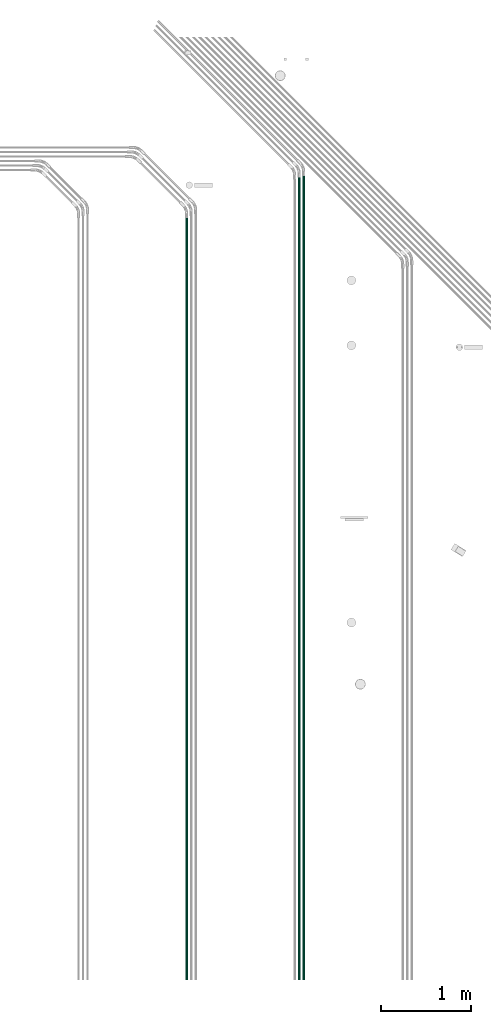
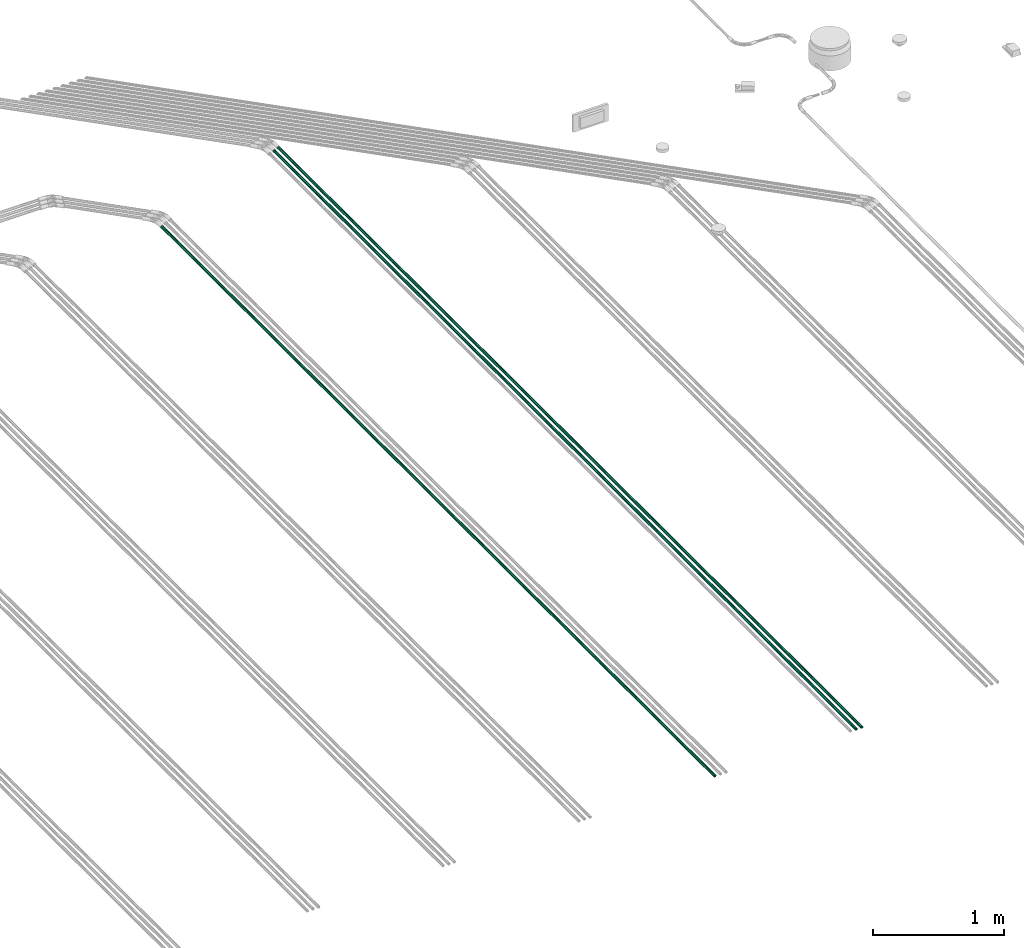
# One storey, part 41 of 51: 3 flow segments.
"""IFC2X3 building model written with IfcOpenShell, lengths in millimetres."""

from ifc_helpers import new_model, entity, si_unit, converted_unit, derived_unit, direction, frame, place, context, subcontext, project, spatial, faceted_brep, type_object, element, save


model = new_model("IFC2X3")

# Units and contexts
model_context = context("Model", 3, precision=0.01, world=frame((0.0, 4.29681676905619e-09, 0.0)), true_north=direction((4.01073788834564e-13, 1.0)))
plan_context = context("Plan", 3, precision=0.01, world=frame((0.0, 4.29681676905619e-09, 0.0)), true_north=direction((4.01073788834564e-13, 1.0)))
body_context = subcontext(model_context, "Body", "Model", "MODEL_VIEW")
ifc_project = project(units=[converted_unit("PLANEANGLEUNIT", "DEGREE", entity("IfcPositiveLengthMeasure", 0.0174532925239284), si_unit("PLANEANGLEUNIT", "RADIAN"), dimensions=[0, 0, 0, 0, 0, 0, 0]), si_unit("AREAUNIT", "SQUARE_METRE"), si_unit("LENGTHUNIT", "METRE", prefix="MILLI"), si_unit("MASSUNIT", "GRAM", prefix="KILO"), si_unit("POWERUNIT", "WATT"), si_unit("PRESSUREUNIT", "PASCAL"), si_unit("FORCEUNIT", "NEWTON", prefix="KILO"), si_unit("ELECTRICVOLTAGEUNIT", "VOLT"), si_unit("ELECTRICCURRENTUNIT", "AMPERE"), si_unit("THERMODYNAMICTEMPERATUREUNIT", "DEGREE_CELSIUS"), si_unit("TIMEUNIT", "SECOND"), si_unit("VOLUMEUNIT", "CUBIC_METRE"), derived_unit("LINEARVELOCITYUNIT", [(si_unit("LENGTHUNIT", "METRE"), 1), (si_unit("TIMEUNIT", "SECOND"), -1)]), derived_unit("VOLUMETRICFLOWRATEUNIT", [(si_unit("VOLUMEUNIT", "CUBIC_METRE"), 1), (si_unit("TIMEUNIT", "SECOND"), -1)]), derived_unit("THERMALTRANSMITTANCEUNIT", [(si_unit("POWERUNIT", "WATT"), 1), (si_unit("THERMODYNAMICTEMPERATUREUNIT", "KELVIN"), -1), (si_unit("AREAUNIT", "SQUARE_METRE"), -1)]), derived_unit("SOUNDPRESSUREUNIT", [(si_unit("PRESSUREUNIT", "PASCAL"), 1)])], contexts=[model_context, plan_context])

# Site, building, storey
site_placement = place(None, frame((0.0, -4.29681676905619e-09, 0.0), z_axis=(0.0, 0.0, 1.0), x_axis=(1.0, 0.0, 0.0)))
site = spatial("IfcSite", under=ifc_project, at=site_placement, Name="ENGM", CompositionType="ELEMENT")
building_placement = place(site_placement, frame((0.0, 4.29681676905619e-09, 0.0), z_axis=(0.0, 0.0, 1.0), x_axis=(1.0, 0.0, 0.0)))
building = spatial("IfcBuilding", under=site, at=building_placement, Name="TI", CompositionType="ELEMENT")
storey_placement = place(building_placement, frame((0.0, 0.0, 210900.0), z_axis=(0.0, 0.0, 1.0), x_axis=(1.0, 0.0, 0.0)))
storey = spatial("IfcBuildingStorey", under=building, at=storey_placement, Name="Nivå F", CompositionType="ELEMENT", Elevation=210900.0)

# Flow segments
cable_carrier_segment_type = type_object("IfcCableCarrierSegmentType", Name="Trekkerør, korrugert", PredefinedType="CONDUITSEGMENT")
flow_segment_1_placement = place(storey_placement, frame((607624.59, 697931.34207, -56.7999999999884), z_axis=(0.0, 0.0, 1.0), x_axis=(0.0, -1.0, 0.0)))
element("IfcFlowSegment", 1, at=flow_segment_1_placement, inside=storey, type_object=cable_carrier_segment_type, Name="Trekkerør, korrugert", context=body_context, shape_type="Brep", body=[
    faceted_brep([(8931.34207000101, 10.5, 0.0), (8931.34207000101, 10.3404814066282, -1.82330586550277), (0.0, 10.3404814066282, -1.82330586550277), (0.0, 10.5, 0.0), (8931.34207000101, 9.86677251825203, -3.59121150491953), (0.0, 9.86677251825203, -3.59121150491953), (8931.34207000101, 9.0932667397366, -5.25000000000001), (0.0, 9.0932667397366, -5.25), (8931.34207000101, 8.04346665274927, -6.74926990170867), (0.0, 8.04346665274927, -6.74926990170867), (8931.34207000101, 6.74926990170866, -8.04346665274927), (0.0, 6.74926990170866, -8.04346665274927), (8931.34207000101, 5.25, -9.09326673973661), (0.0, 5.25, -9.09326673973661), (8931.34207000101, 3.59121150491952, -9.86677251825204), (0.0, 3.59121150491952, -9.86677251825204), (8931.34207000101, 1.82330586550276, -10.3404814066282), (0.0, 1.82330586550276, -10.3404814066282), (8931.34207000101, -1.92881870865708e-15, -10.5), (0.0, -1.92881870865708e-15, -10.5), (8931.34207000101, -1.82330586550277, -10.3404814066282), (0.0, -1.82330586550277, -10.3404814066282), (8931.34207000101, -3.59121150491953, -9.86677251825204), (0.0, -3.59121150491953, -9.86677251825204), (8931.34207000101, -5.25000000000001, -9.0932667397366), (0.0, -5.25, -9.0932667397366), (8931.34207000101, -6.74926990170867, -8.04346665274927), (0.0, -6.74926990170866, -8.04346665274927), (8931.34207000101, -8.04346665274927, -6.74926990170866), (0.0, -8.04346665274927, -6.74926990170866), (8931.34207000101, -9.09326673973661, -5.25), (0.0, -9.09326673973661, -5.25), (8931.34207000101, -9.86677251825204, -3.59121150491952), (0.0, -9.86677251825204, -3.59121150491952), (8931.34207000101, -10.3404814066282, -1.82330586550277), (0.0, -10.3404814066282, -1.82330586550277), (8931.34207000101, -10.5, 1.28587913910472e-15), (0.0, -10.5, 1.28587913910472e-15), (8931.34207000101, -10.3404814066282, 1.82330586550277), (0.0, -10.3404814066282, 1.82330586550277), (8931.34207000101, -9.86677251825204, 3.59121150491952), (0.0, -9.86677251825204, 3.59121150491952), (8931.34207000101, -9.09326673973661, 5.25), (0.0, -9.09326673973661, 5.25), (8931.34207000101, -8.04346665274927, 6.74926990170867), (0.0, -8.04346665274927, 6.74926990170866), (8931.34207000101, -6.74926990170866, 8.04346665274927), (0.0, -6.74926990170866, 8.04346665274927), (8931.34207000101, -5.25, 9.09326673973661), (0.0, -5.25, 9.09326673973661), (8931.34207000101, -3.59121150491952, 9.86677251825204), (0.0, -3.59121150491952, 9.86677251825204), (8931.34207000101, -1.82330586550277, 10.3404814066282), (0.0, -1.82330586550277, 10.3404814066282), (8931.34207000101, 6.42939569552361e-16, 10.5), (0.0, 6.4293956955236e-16, 10.5), (8931.34207000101, 1.82330586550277, 10.3404814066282), (0.0, 1.82330586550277, 10.3404814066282), (8931.34207000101, 3.59121150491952, 9.86677251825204), (0.0, 3.59121150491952, 9.86677251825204), (8931.34207000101, 5.25, 9.09326673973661), (0.0, 5.25, 9.09326673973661), (8931.34207000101, 6.74926990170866, 8.04346665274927), (0.0, 6.74926990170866, 8.04346665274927), (8931.34207000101, 8.04346665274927, 6.74926990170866), (0.0, 8.04346665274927, 6.74926990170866), (8931.34207000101, 9.09326673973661, 5.25), (0.0, 9.09326673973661, 5.25), (8931.34207000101, 9.86677251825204, 3.59121150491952), (0.0, 9.86677251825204, 3.59121150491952), (8931.34207000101, 10.3404814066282, 1.82330586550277), (0.0, 10.3404814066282, 1.82330586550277), (8931.34207000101, 12.3100969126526, -2.17060222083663), (8931.34207000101, 12.5, 0.0), (0.0, 12.5, 0.0), (0.0, 12.3100969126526, -2.17060222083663), (8931.34207000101, 12.3100969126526, 2.17060222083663), (0.0, 12.3100969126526, 2.17060222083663), (8931.34207000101, 11.7461577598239, 4.27525179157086), (0.0, 11.7461577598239, 4.27525179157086), (8931.34207000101, 10.8253175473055, 6.25), (0.0, 10.8253175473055, 6.25), (8931.34207000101, 9.57555553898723, 8.03484512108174), (0.0, 9.57555553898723, 8.03484512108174), (8931.34207000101, 8.03484512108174, 9.57555553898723), (0.0, 8.03484512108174, 9.57555553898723), (8931.34207000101, 6.25, 10.8253175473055), (0.0, 6.25, 10.8253175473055), (8931.34207000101, 4.27525179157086, 11.7461577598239), (0.0, 4.27525179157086, 11.7461577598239), (8931.34207000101, 2.17060222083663, 12.3100969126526), (0.0, 2.17060222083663, 12.3100969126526), (8931.34207000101, 7.65404249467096e-16, 12.5), (0.0, 7.65404249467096e-16, 12.5), (8931.34207000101, -2.17060222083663, 12.3100969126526), (0.0, -2.17060222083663, 12.3100969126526), (8931.34207000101, -4.27525179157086, 11.7461577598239), (0.0, -4.27525179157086, 11.7461577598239), (8931.34207000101, -6.25, 10.8253175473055), (0.0, -6.25, 10.8253175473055), (8931.34207000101, -8.03484512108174, 9.57555553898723), (0.0, -8.03484512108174, 9.57555553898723), (8931.34207000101, -9.57555553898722, 8.03484512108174), (0.0, -9.57555553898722, 8.03484512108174), (8931.34207000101, -10.8253175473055, 6.25), (0.0, -10.8253175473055, 6.25), (8931.34207000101, -11.7461577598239, 4.27525179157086), (0.0, -11.7461577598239, 4.27525179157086), (8931.34207000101, -12.3100969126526, 2.17060222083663), (0.0, -12.3100969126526, 2.17060222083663), (8931.34207000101, -12.5, 1.53080849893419e-15), (0.0, -12.5, 1.53080849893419e-15), (8931.34207000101, -12.3100969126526, -2.17060222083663), (0.0, -12.3100969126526, -2.17060222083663), (8931.34207000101, -11.7461577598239, -4.27525179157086), (0.0, -11.7461577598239, -4.27525179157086), (8931.34207000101, -10.8253175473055, -6.25), (0.0, -10.8253175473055, -6.25), (8931.34207000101, -9.57555553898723, -8.03484512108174), (0.0, -9.57555553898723, -8.03484512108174), (8931.34207000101, -8.03484512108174, -9.57555553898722), (0.0, -8.03484512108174, -9.57555553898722), (8931.34207000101, -6.25000000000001, -10.8253175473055), (0.0, -6.25000000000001, -10.8253175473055), (8931.34207000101, -4.27525179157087, -11.7461577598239), (0.0, -4.27525179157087, -11.7461577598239), (8931.34207000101, -2.17060222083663, -12.3100969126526), (0.0, -2.17060222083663, -12.3100969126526), (8931.34207000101, -2.29621274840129e-15, -12.5), (0.0, -2.29621274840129e-15, -12.5), (8931.34207000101, 2.17060222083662, -12.3100969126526), (0.0, 2.17060222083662, -12.3100969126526), (8931.34207000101, 4.27525179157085, -11.7461577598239), (0.0, 4.27525179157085, -11.7461577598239), (8931.34207000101, 6.25, -10.8253175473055), (0.0, 6.25, -10.8253175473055), (8931.34207000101, 8.03484512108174, -9.57555553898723), (0.0, 8.03484512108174, -9.57555553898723), (8931.34207000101, 9.57555553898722, -8.03484512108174), (0.0, 9.57555553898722, -8.03484512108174), (8931.34207000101, 10.8253175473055, -6.25000000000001), (0.0, 10.8253175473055, -6.25000000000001), (8931.34207000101, 11.7461577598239, -4.27525179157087), (0.0, 11.7461577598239, -4.27525179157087)], [[[0, 1, 2, 3]], [[1, 4, 5, 2]], [[4, 6, 7, 5]], [[6, 8, 9, 7]], [[8, 10, 11, 9]], [[10, 12, 13, 11]], [[12, 14, 15, 13]], [[14, 16, 17, 15]], [[16, 18, 19, 17]], [[18, 20, 21, 19]], [[20, 22, 23, 21]], [[22, 24, 25, 23]], [[24, 26, 27, 25]], [[26, 28, 29, 27]], [[28, 30, 31, 29]], [[30, 32, 33, 31]], [[32, 34, 35, 33]], [[34, 36, 37, 35]], [[36, 38, 39, 37]], [[38, 40, 41, 39]], [[40, 42, 43, 41]], [[42, 44, 45, 43]], [[44, 46, 47, 45]], [[46, 48, 49, 47]], [[48, 50, 51, 49]], [[50, 52, 53, 51]], [[52, 54, 55, 53]], [[54, 56, 57, 55]], [[56, 58, 59, 57]], [[58, 60, 61, 59]], [[60, 62, 63, 61]], [[62, 64, 65, 63]], [[64, 66, 67, 65]], [[66, 68, 69, 67]], [[68, 70, 71, 69]], [[70, 0, 3, 71]], [[72, 73, 74, 75]], [[73, 76, 77, 74]], [[76, 78, 79, 77]], [[78, 80, 81, 79]], [[80, 82, 83, 81]], [[82, 84, 85, 83]], [[84, 86, 87, 85]], [[86, 88, 89, 87]], [[88, 90, 91, 89]], [[90, 92, 93, 91]], [[92, 94, 95, 93]], [[94, 96, 97, 95]], [[96, 98, 99, 97]], [[98, 100, 101, 99]], [[100, 102, 103, 101]], [[102, 104, 105, 103]], [[104, 106, 107, 105]], [[106, 108, 109, 107]], [[108, 110, 111, 109]], [[110, 112, 113, 111]], [[112, 114, 115, 113]], [[114, 116, 117, 115]], [[116, 118, 119, 117]], [[118, 120, 121, 119]], [[120, 122, 123, 121]], [[122, 124, 125, 123]], [[124, 126, 127, 125]], [[126, 128, 129, 127]], [[128, 130, 131, 129]], [[130, 132, 133, 131]], [[132, 134, 135, 133]], [[134, 136, 137, 135]], [[136, 138, 139, 137]], [[138, 140, 141, 139]], [[140, 142, 143, 141]], [[142, 72, 75, 143]], [[75, 74, 77, 79, 81, 83, 85, 87, 89, 91, 93, 95, 97, 99, 101, 103, 105, 107, 109, 111, 113, 115, 117, 119, 121, 123, 125, 127, 129, 131, 133, 135, 137, 139, 141, 143], [3, 2, 5, 7, 9, 11, 13, 15, 17, 19, 21, 23, 25, 27, 29, 31, 33, 35, 37, 39, 41, 43, 45, 47, 49, 51, 53, 55, 57, 59, 61, 63, 65, 67, 69, 71]], [[142, 140, 138, 136, 134, 132, 130, 128, 126, 124, 122, 120, 118, 116, 114, 112, 110, 108, 106, 104, 102, 100, 98, 96, 94, 92, 90, 88, 86, 84, 82, 80, 78, 76, 73, 72], [70, 68, 66, 64, 62, 60, 58, 56, 54, 52, 50, 48, 46, 44, 42, 40, 38, 36, 34, 32, 30, 28, 26, 24, 22, 20, 18, 16, 14, 12, 10, 8, 6, 4, 1, 0]]], orient=[[False], [False], [False], [False], [False], [False], [False], [False], [False], [False], [False], [False], [False], [False], [False], [False], [False], [False], [False], [False], [False], [False], [False], [False], [False], [False], [False], [False], [False], [False], [False], [False], [False], [False], [False], [False], [False], [False], [False], [False], [False], [False], [False], [False], [False], [False], [False], [False], [False], [False], [False], [False], [False], [False], [False], [False], [False], [False], [False], [False], [False], [False], [False], [False], [False], [False], [False], [False], [False], [False], [False], [False], [False, False], [False, False]]),
])
flow_segment_2_placement = place(storey_placement, frame((607574.59, 697910.63139, -56.7999999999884), z_axis=(0.0, 0.0, 1.0), x_axis=(0.0, -1.0, 0.0)))
element("IfcFlowSegment", 2, at=flow_segment_2_placement, inside=storey, type_object=cable_carrier_segment_type, Name="Trekkerør, korrugert", context=body_context, shape_type="Brep", body=[
    faceted_brep([(8910.63139000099, 10.5, 0.0), (8910.63139000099, 10.3404814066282, -1.82330586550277), (0.0, 10.3404814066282, -1.82330586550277), (0.0, 10.5, 0.0), (8910.63139000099, 9.86677251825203, -3.59121150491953), (0.0, 9.86677251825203, -3.59121150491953), (8910.63139000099, 9.0932667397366, -5.25), (0.0, 9.0932667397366, -5.25), (8910.63139000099, 8.04346665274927, -6.74926990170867), (0.0, 8.04346665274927, -6.74926990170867), (8910.63139000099, 6.74926990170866, -8.04346665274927), (0.0, 6.74926990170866, -8.04346665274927), (8910.63139000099, 5.25, -9.09326673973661), (0.0, 5.25, -9.09326673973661), (8910.63139000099, 3.59121150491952, -9.86677251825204), (0.0, 3.59121150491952, -9.86677251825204), (8910.63139000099, 1.82330586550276, -10.3404814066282), (0.0, 1.82330586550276, -10.3404814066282), (8910.63139000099, -1.92881870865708e-15, -10.5), (0.0, -1.92881870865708e-15, -10.5), (8910.63139000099, -1.82330586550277, -10.3404814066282), (0.0, -1.82330586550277, -10.3404814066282), (8910.63139000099, -3.59121150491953, -9.86677251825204), (0.0, -3.59121150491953, -9.86677251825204), (8910.63139000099, -5.25, -9.0932667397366), (0.0, -5.25, -9.0932667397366), (8910.63139000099, -6.74926990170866, -8.04346665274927), (0.0, -6.74926990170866, -8.04346665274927), (8910.63139000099, -8.04346665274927, -6.74926990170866), (0.0, -8.04346665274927, -6.74926990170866), (8910.63139000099, -9.09326673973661, -5.25), (0.0, -9.09326673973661, -5.25), (8910.63139000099, -9.86677251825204, -3.59121150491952), (0.0, -9.86677251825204, -3.59121150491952), (8910.63139000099, -10.3404814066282, -1.82330586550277), (0.0, -10.3404814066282, -1.82330586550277), (8910.63139000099, -10.5, 1.28587913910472e-15), (0.0, -10.5, 1.28587913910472e-15), (8910.63139000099, -10.3404814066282, 1.82330586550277), (0.0, -10.3404814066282, 1.82330586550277), (8910.63139000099, -9.86677251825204, 3.59121150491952), (0.0, -9.86677251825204, 3.59121150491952), (8910.63139000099, -9.09326673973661, 5.25), (0.0, -9.09326673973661, 5.25), (8910.63139000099, -8.04346665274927, 6.74926990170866), (0.0, -8.04346665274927, 6.74926990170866), (8910.63139000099, -6.74926990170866, 8.04346665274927), (0.0, -6.74926990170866, 8.04346665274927), (8910.63139000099, -5.25, 9.09326673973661), (0.0, -5.25, 9.09326673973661), (8910.63139000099, -3.59121150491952, 9.86677251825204), (0.0, -3.59121150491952, 9.86677251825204), (8910.63139000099, -1.82330586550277, 10.3404814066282), (0.0, -1.82330586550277, 10.3404814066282), (8910.63139000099, 6.4293956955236e-16, 10.5), (0.0, 6.4293956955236e-16, 10.5), (8910.63139000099, 1.82330586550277, 10.3404814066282), (0.0, 1.82330586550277, 10.3404814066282), (8910.63139000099, 3.59121150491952, 9.86677251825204), (0.0, 3.59121150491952, 9.86677251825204), (8910.63139000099, 5.25, 9.09326673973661), (0.0, 5.25, 9.09326673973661), (8910.63139000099, 6.74926990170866, 8.04346665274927), (0.0, 6.74926990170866, 8.04346665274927), (8910.63139000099, 8.04346665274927, 6.74926990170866), (0.0, 8.04346665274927, 6.74926990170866), (8910.63139000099, 9.09326673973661, 5.25), (0.0, 9.09326673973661, 5.25), (8910.63139000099, 9.86677251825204, 3.59121150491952), (0.0, 9.86677251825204, 3.59121150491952), (8910.63139000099, 10.3404814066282, 1.82330586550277), (0.0, 10.3404814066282, 1.82330586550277), (8910.63139000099, 12.3100969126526, -2.17060222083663), (8910.63139000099, 12.5, 0.0), (0.0, 12.5, 0.0), (0.0, 12.3100969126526, -2.17060222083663), (8910.63139000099, 12.3100969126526, 2.17060222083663), (0.0, 12.3100969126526, 2.17060222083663), (8910.63139000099, 11.7461577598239, 4.27525179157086), (0.0, 11.7461577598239, 4.27525179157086), (8910.63139000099, 10.8253175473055, 6.25), (0.0, 10.8253175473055, 6.25), (8910.63139000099, 9.57555553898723, 8.03484512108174), (0.0, 9.57555553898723, 8.03484512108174), (8910.63139000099, 8.03484512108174, 9.57555553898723), (0.0, 8.03484512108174, 9.57555553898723), (8910.63139000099, 6.25, 10.8253175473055), (0.0, 6.25, 10.8253175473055), (8910.63139000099, 4.27525179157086, 11.7461577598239), (0.0, 4.27525179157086, 11.7461577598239), (8910.63139000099, 2.17060222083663, 12.3100969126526), (0.0, 2.17060222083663, 12.3100969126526), (8910.63139000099, 7.65404249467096e-16, 12.5), (0.0, 7.65404249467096e-16, 12.5), (8910.63139000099, -2.17060222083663, 12.3100969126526), (0.0, -2.17060222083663, 12.3100969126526), (8910.63139000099, -4.27525179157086, 11.7461577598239), (0.0, -4.27525179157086, 11.7461577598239), (8910.63139000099, -6.25, 10.8253175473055), (0.0, -6.25, 10.8253175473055), (8910.63139000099, -8.03484512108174, 9.57555553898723), (0.0, -8.03484512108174, 9.57555553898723), (8910.63139000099, -9.57555553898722, 8.03484512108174), (0.0, -9.57555553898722, 8.03484512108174), (8910.63139000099, -10.8253175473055, 6.25), (0.0, -10.8253175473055, 6.25), (8910.63139000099, -11.7461577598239, 4.27525179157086), (0.0, -11.7461577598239, 4.27525179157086), (8910.63139000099, -12.3100969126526, 2.17060222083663), (0.0, -12.3100969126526, 2.17060222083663), (8910.63139000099, -12.5, 1.53080849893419e-15), (0.0, -12.5, 1.53080849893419e-15), (8910.63139000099, -12.3100969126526, -2.17060222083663), (0.0, -12.3100969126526, -2.17060222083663), (8910.63139000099, -11.7461577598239, -4.27525179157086), (0.0, -11.7461577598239, -4.27525179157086), (8910.63139000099, -10.8253175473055, -6.25), (0.0, -10.8253175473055, -6.25), (8910.63139000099, -9.57555553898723, -8.03484512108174), (0.0, -9.57555553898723, -8.03484512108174), (8910.63139000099, -8.03484512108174, -9.57555553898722), (0.0, -8.03484512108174, -9.57555553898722), (8910.63139000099, -6.25000000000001, -10.8253175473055), (0.0, -6.25000000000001, -10.8253175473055), (8910.63139000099, -4.27525179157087, -11.7461577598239), (0.0, -4.27525179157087, -11.7461577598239), (8910.63139000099, -2.17060222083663, -12.3100969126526), (0.0, -2.17060222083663, -12.3100969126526), (8910.63139000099, -2.29621274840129e-15, -12.5), (0.0, -2.29621274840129e-15, -12.5), (8910.63139000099, 2.17060222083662, -12.3100969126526), (0.0, 2.17060222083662, -12.3100969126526), (8910.63139000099, 4.27525179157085, -11.7461577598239), (0.0, 4.27525179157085, -11.7461577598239), (8910.63139000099, 6.25, -10.8253175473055), (0.0, 6.25, -10.8253175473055), (8910.63139000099, 8.03484512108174, -9.57555553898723), (0.0, 8.03484512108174, -9.57555553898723), (8910.63139000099, 9.57555553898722, -8.03484512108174), (0.0, 9.57555553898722, -8.03484512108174), (8910.63139000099, 10.8253175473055, -6.25000000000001), (0.0, 10.8253175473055, -6.25000000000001), (8910.63139000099, 11.7461577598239, -4.27525179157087), (0.0, 11.7461577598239, -4.27525179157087)], [[[0, 1, 2, 3]], [[1, 4, 5, 2]], [[4, 6, 7, 5]], [[6, 8, 9, 7]], [[8, 10, 11, 9]], [[10, 12, 13, 11]], [[12, 14, 15, 13]], [[14, 16, 17, 15]], [[16, 18, 19, 17]], [[18, 20, 21, 19]], [[20, 22, 23, 21]], [[22, 24, 25, 23]], [[24, 26, 27, 25]], [[26, 28, 29, 27]], [[28, 30, 31, 29]], [[30, 32, 33, 31]], [[32, 34, 35, 33]], [[34, 36, 37, 35]], [[36, 38, 39, 37]], [[38, 40, 41, 39]], [[40, 42, 43, 41]], [[42, 44, 45, 43]], [[44, 46, 47, 45]], [[46, 48, 49, 47]], [[48, 50, 51, 49]], [[50, 52, 53, 51]], [[52, 54, 55, 53]], [[54, 56, 57, 55]], [[56, 58, 59, 57]], [[58, 60, 61, 59]], [[60, 62, 63, 61]], [[62, 64, 65, 63]], [[64, 66, 67, 65]], [[66, 68, 69, 67]], [[68, 70, 71, 69]], [[70, 0, 3, 71]], [[72, 73, 74, 75]], [[73, 76, 77, 74]], [[76, 78, 79, 77]], [[78, 80, 81, 79]], [[80, 82, 83, 81]], [[82, 84, 85, 83]], [[84, 86, 87, 85]], [[86, 88, 89, 87]], [[88, 90, 91, 89]], [[90, 92, 93, 91]], [[92, 94, 95, 93]], [[94, 96, 97, 95]], [[96, 98, 99, 97]], [[98, 100, 101, 99]], [[100, 102, 103, 101]], [[102, 104, 105, 103]], [[104, 106, 107, 105]], [[106, 108, 109, 107]], [[108, 110, 111, 109]], [[110, 112, 113, 111]], [[112, 114, 115, 113]], [[114, 116, 117, 115]], [[116, 118, 119, 117]], [[118, 120, 121, 119]], [[120, 122, 123, 121]], [[122, 124, 125, 123]], [[124, 126, 127, 125]], [[126, 128, 129, 127]], [[128, 130, 131, 129]], [[130, 132, 133, 131]], [[132, 134, 135, 133]], [[134, 136, 137, 135]], [[136, 138, 139, 137]], [[138, 140, 141, 139]], [[140, 142, 143, 141]], [[142, 72, 75, 143]], [[75, 74, 77, 79, 81, 83, 85, 87, 89, 91, 93, 95, 97, 99, 101, 103, 105, 107, 109, 111, 113, 115, 117, 119, 121, 123, 125, 127, 129, 131, 133, 135, 137, 139, 141, 143], [3, 2, 5, 7, 9, 11, 13, 15, 17, 19, 21, 23, 25, 27, 29, 31, 33, 35, 37, 39, 41, 43, 45, 47, 49, 51, 53, 55, 57, 59, 61, 63, 65, 67, 69, 71]], [[142, 140, 138, 136, 134, 132, 130, 128, 126, 124, 122, 120, 118, 116, 114, 112, 110, 108, 106, 104, 102, 100, 98, 96, 94, 92, 90, 88, 86, 84, 82, 80, 78, 76, 73, 72], [70, 68, 66, 64, 62, 60, 58, 56, 54, 52, 50, 48, 46, 44, 42, 40, 38, 36, 34, 32, 30, 28, 26, 24, 22, 20, 18, 16, 14, 12, 10, 8, 6, 4, 1, 0]]], orient=[[False], [False], [False], [False], [False], [False], [False], [False], [False], [False], [False], [False], [False], [False], [False], [False], [False], [False], [False], [False], [False], [False], [False], [False], [False], [False], [False], [False], [False], [False], [False], [False], [False], [False], [False], [False], [False], [False], [False], [False], [False], [False], [False], [False], [False], [False], [False], [False], [False], [False], [False], [False], [False], [False], [False], [False], [False], [False], [False], [False], [False], [False], [False], [False], [False], [False], [False], [False], [False], [False], [False], [False], [False, False], [False, False]]),
])
flow_segment_3_placement = place(storey_placement, frame((606324.59, 697463.57511, -56.7999999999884), z_axis=(0.0, 0.0, 1.0), x_axis=(0.0, -1.0, 0.0)))
element("IfcFlowSegment", 3, at=flow_segment_3_placement, inside=storey, type_object=cable_carrier_segment_type, Name="Trekkerør, korrugert", context=body_context, shape_type="Brep", body=[
    faceted_brep([(8463.57511000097, 10.5, 0.0), (8463.57511000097, 10.3404814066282, -1.82330586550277), (0.0, 10.3404814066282, -1.82330586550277), (0.0, 10.5, 0.0), (8463.57511000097, 9.86677251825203, -3.59121150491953), (0.0, 9.86677251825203, -3.59121150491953), (8463.57511000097, 9.0932667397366, -5.25), (0.0, 9.0932667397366, -5.25), (8463.57511000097, 8.04346665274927, -6.74926990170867), (0.0, 8.04346665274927, -6.74926990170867), (8463.57511000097, 6.74926990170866, -8.04346665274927), (0.0, 6.74926990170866, -8.04346665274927), (8463.57511000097, 5.25, -9.09326673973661), (0.0, 5.25, -9.09326673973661), (8463.57511000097, 3.59121150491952, -9.86677251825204), (0.0, 3.59121150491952, -9.86677251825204), (8463.57511000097, 1.82330586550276, -10.3404814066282), (0.0, 1.82330586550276, -10.3404814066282), (8463.57511000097, -1.92881870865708e-15, -10.5), (0.0, -1.92881870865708e-15, -10.5), (8463.57511000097, -1.82330586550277, -10.3404814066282), (0.0, -1.82330586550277, -10.3404814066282), (8463.57511000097, -3.59121150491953, -9.86677251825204), (0.0, -3.59121150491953, -9.86677251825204), (8463.57511000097, -5.25, -9.0932667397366), (0.0, -5.25, -9.0932667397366), (8463.57511000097, -6.74926990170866, -8.04346665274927), (0.0, -6.74926990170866, -8.04346665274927), (8463.57511000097, -8.04346665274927, -6.74926990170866), (0.0, -8.04346665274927, -6.74926990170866), (8463.57511000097, -9.09326673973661, -5.25), (0.0, -9.09326673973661, -5.25), (8463.57511000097, -9.86677251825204, -3.59121150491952), (0.0, -9.86677251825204, -3.59121150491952), (8463.57511000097, -10.3404814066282, -1.82330586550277), (0.0, -10.3404814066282, -1.82330586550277), (8463.57511000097, -10.5, 1.28587913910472e-15), (0.0, -10.5, 1.28587913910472e-15), (8463.57511000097, -10.3404814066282, 1.82330586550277), (0.0, -10.3404814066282, 1.82330586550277), (8463.57511000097, -9.86677251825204, 3.59121150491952), (0.0, -9.86677251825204, 3.59121150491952), (8463.57511000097, -9.09326673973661, 5.25), (0.0, -9.09326673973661, 5.25), (8463.57511000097, -8.04346665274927, 6.74926990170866), (0.0, -8.04346665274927, 6.74926990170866), (8463.57511000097, -6.74926990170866, 8.04346665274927), (0.0, -6.74926990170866, 8.04346665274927), (8463.57511000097, -5.25, 9.09326673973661), (0.0, -5.25, 9.09326673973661), (8463.57511000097, -3.59121150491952, 9.86677251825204), (0.0, -3.59121150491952, 9.86677251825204), (8463.57511000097, -1.82330586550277, 10.3404814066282), (0.0, -1.82330586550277, 10.3404814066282), (8463.57511000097, 6.4293956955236e-16, 10.5), (0.0, 6.4293956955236e-16, 10.5), (8463.57511000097, 1.82330586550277, 10.3404814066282), (0.0, 1.82330586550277, 10.3404814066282), (8463.57511000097, 3.59121150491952, 9.86677251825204), (0.0, 3.59121150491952, 9.86677251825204), (8463.57511000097, 5.25, 9.09326673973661), (0.0, 5.25, 9.09326673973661), (8463.57511000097, 6.74926990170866, 8.04346665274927), (0.0, 6.74926990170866, 8.04346665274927), (8463.57511000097, 8.04346665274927, 6.74926990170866), (0.0, 8.04346665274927, 6.74926990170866), (8463.57511000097, 9.09326673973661, 5.25), (0.0, 9.09326673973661, 5.25), (8463.57511000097, 9.86677251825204, 3.59121150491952), (0.0, 9.86677251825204, 3.59121150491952), (8463.57511000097, 10.3404814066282, 1.82330586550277), (0.0, 10.3404814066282, 1.82330586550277), (8463.57511000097, 12.3100969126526, -2.17060222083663), (8463.57511000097, 12.5, 0.0), (0.0, 12.5, 0.0), (0.0, 12.3100969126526, -2.17060222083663), (8463.57511000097, 12.3100969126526, 2.17060222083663), (0.0, 12.3100969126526, 2.17060222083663), (8463.57511000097, 11.7461577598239, 4.27525179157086), (0.0, 11.7461577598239, 4.27525179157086), (8463.57511000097, 10.8253175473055, 6.25), (0.0, 10.8253175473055, 6.25), (8463.57511000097, 9.57555553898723, 8.03484512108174), (0.0, 9.57555553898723, 8.03484512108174), (8463.57511000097, 8.03484512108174, 9.57555553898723), (0.0, 8.03484512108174, 9.57555553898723), (8463.57511000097, 6.25, 10.8253175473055), (0.0, 6.25, 10.8253175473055), (8463.57511000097, 4.27525179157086, 11.7461577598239), (0.0, 4.27525179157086, 11.7461577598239), (8463.57511000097, 2.17060222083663, 12.3100969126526), (0.0, 2.17060222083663, 12.3100969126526), (8463.57511000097, 7.65404249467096e-16, 12.5), (0.0, 7.65404249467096e-16, 12.5), (8463.57511000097, -2.17060222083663, 12.3100969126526), (0.0, -2.17060222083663, 12.3100969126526), (8463.57511000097, -4.27525179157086, 11.7461577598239), (0.0, -4.27525179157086, 11.7461577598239), (8463.57511000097, -6.25, 10.8253175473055), (0.0, -6.25, 10.8253175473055), (8463.57511000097, -8.03484512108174, 9.57555553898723), (0.0, -8.03484512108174, 9.57555553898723), (8463.57511000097, -9.57555553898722, 8.03484512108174), (0.0, -9.57555553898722, 8.03484512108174), (8463.57511000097, -10.8253175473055, 6.25), (0.0, -10.8253175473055, 6.25), (8463.57511000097, -11.7461577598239, 4.27525179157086), (0.0, -11.7461577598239, 4.27525179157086), (8463.57511000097, -12.3100969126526, 2.17060222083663), (0.0, -12.3100969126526, 2.17060222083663), (8463.57511000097, -12.5, 1.53080849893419e-15), (0.0, -12.5, 1.53080849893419e-15), (8463.57511000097, -12.3100969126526, -2.17060222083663), (0.0, -12.3100969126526, -2.17060222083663), (8463.57511000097, -11.7461577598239, -4.27525179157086), (0.0, -11.7461577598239, -4.27525179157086), (8463.57511000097, -10.8253175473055, -6.25), (0.0, -10.8253175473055, -6.25), (8463.57511000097, -9.57555553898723, -8.03484512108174), (0.0, -9.57555553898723, -8.03484512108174), (8463.57511000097, -8.03484512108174, -9.57555553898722), (0.0, -8.03484512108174, -9.57555553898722), (8463.57511000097, -6.25000000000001, -10.8253175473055), (0.0, -6.25000000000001, -10.8253175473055), (8463.57511000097, -4.27525179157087, -11.7461577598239), (0.0, -4.27525179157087, -11.7461577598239), (8463.57511000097, -2.17060222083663, -12.3100969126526), (0.0, -2.17060222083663, -12.3100969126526), (8463.57511000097, -2.29621274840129e-15, -12.5), (0.0, -2.29621274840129e-15, -12.5), (8463.57511000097, 2.17060222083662, -12.3100969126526), (0.0, 2.17060222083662, -12.3100969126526), (8463.57511000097, 4.27525179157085, -11.7461577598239), (0.0, 4.27525179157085, -11.7461577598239), (8463.57511000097, 6.25, -10.8253175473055), (0.0, 6.25, -10.8253175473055), (8463.57511000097, 8.03484512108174, -9.57555553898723), (0.0, 8.03484512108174, -9.57555553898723), (8463.57511000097, 9.57555553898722, -8.03484512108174), (0.0, 9.57555553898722, -8.03484512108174), (8463.57511000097, 10.8253175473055, -6.25000000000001), (0.0, 10.8253175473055, -6.25000000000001), (8463.57511000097, 11.7461577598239, -4.27525179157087), (0.0, 11.7461577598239, -4.27525179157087)], [[[0, 1, 2, 3]], [[1, 4, 5, 2]], [[4, 6, 7, 5]], [[6, 8, 9, 7]], [[8, 10, 11, 9]], [[10, 12, 13, 11]], [[12, 14, 15, 13]], [[14, 16, 17, 15]], [[16, 18, 19, 17]], [[18, 20, 21, 19]], [[20, 22, 23, 21]], [[22, 24, 25, 23]], [[24, 26, 27, 25]], [[26, 28, 29, 27]], [[28, 30, 31, 29]], [[30, 32, 33, 31]], [[32, 34, 35, 33]], [[34, 36, 37, 35]], [[36, 38, 39, 37]], [[38, 40, 41, 39]], [[40, 42, 43, 41]], [[42, 44, 45, 43]], [[44, 46, 47, 45]], [[46, 48, 49, 47]], [[48, 50, 51, 49]], [[50, 52, 53, 51]], [[52, 54, 55, 53]], [[54, 56, 57, 55]], [[56, 58, 59, 57]], [[58, 60, 61, 59]], [[60, 62, 63, 61]], [[62, 64, 65, 63]], [[64, 66, 67, 65]], [[66, 68, 69, 67]], [[68, 70, 71, 69]], [[70, 0, 3, 71]], [[72, 73, 74, 75]], [[73, 76, 77, 74]], [[76, 78, 79, 77]], [[78, 80, 81, 79]], [[80, 82, 83, 81]], [[82, 84, 85, 83]], [[84, 86, 87, 85]], [[86, 88, 89, 87]], [[88, 90, 91, 89]], [[90, 92, 93, 91]], [[92, 94, 95, 93]], [[94, 96, 97, 95]], [[96, 98, 99, 97]], [[98, 100, 101, 99]], [[100, 102, 103, 101]], [[102, 104, 105, 103]], [[104, 106, 107, 105]], [[106, 108, 109, 107]], [[108, 110, 111, 109]], [[110, 112, 113, 111]], [[112, 114, 115, 113]], [[114, 116, 117, 115]], [[116, 118, 119, 117]], [[118, 120, 121, 119]], [[120, 122, 123, 121]], [[122, 124, 125, 123]], [[124, 126, 127, 125]], [[126, 128, 129, 127]], [[128, 130, 131, 129]], [[130, 132, 133, 131]], [[132, 134, 135, 133]], [[134, 136, 137, 135]], [[136, 138, 139, 137]], [[138, 140, 141, 139]], [[140, 142, 143, 141]], [[142, 72, 75, 143]], [[75, 74, 77, 79, 81, 83, 85, 87, 89, 91, 93, 95, 97, 99, 101, 103, 105, 107, 109, 111, 113, 115, 117, 119, 121, 123, 125, 127, 129, 131, 133, 135, 137, 139, 141, 143], [3, 2, 5, 7, 9, 11, 13, 15, 17, 19, 21, 23, 25, 27, 29, 31, 33, 35, 37, 39, 41, 43, 45, 47, 49, 51, 53, 55, 57, 59, 61, 63, 65, 67, 69, 71]], [[142, 140, 138, 136, 134, 132, 130, 128, 126, 124, 122, 120, 118, 116, 114, 112, 110, 108, 106, 104, 102, 100, 98, 96, 94, 92, 90, 88, 86, 84, 82, 80, 78, 76, 73, 72], [70, 68, 66, 64, 62, 60, 58, 56, 54, 52, 50, 48, 46, 44, 42, 40, 38, 36, 34, 32, 30, 28, 26, 24, 22, 20, 18, 16, 14, 12, 10, 8, 6, 4, 1, 0]]], orient=[[False], [False], [False], [False], [False], [False], [False], [False], [False], [False], [False], [False], [False], [False], [False], [False], [False], [False], [False], [False], [False], [False], [False], [False], [False], [False], [False], [False], [False], [False], [False], [False], [False], [False], [False], [False], [False], [False], [False], [False], [False], [False], [False], [False], [False], [False], [False], [False], [False], [False], [False], [False], [False], [False], [False], [False], [False], [False], [False], [False], [False], [False], [False], [False], [False], [False], [False], [False], [False], [False], [False], [False], [False, False], [False, False]]),
])

save(model, "model.ifc")
